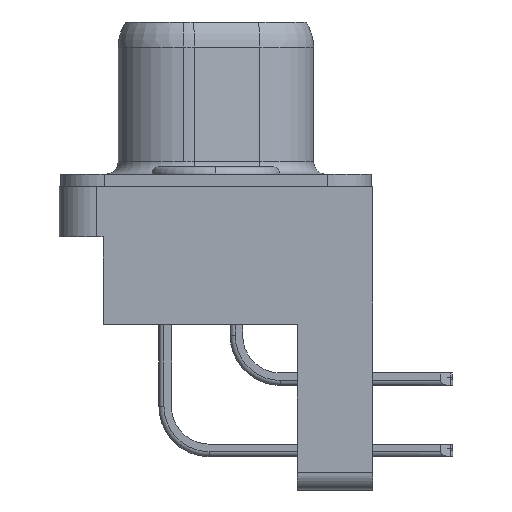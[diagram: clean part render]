
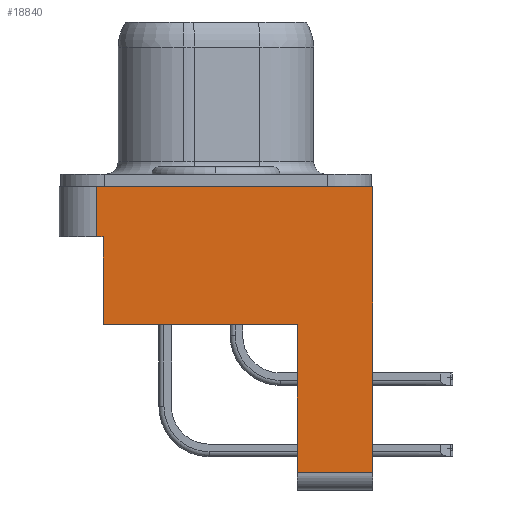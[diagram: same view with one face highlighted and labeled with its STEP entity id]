
A CAD part, left-side view. The second image highlights one B-rep face of the part: STEP entity #18840.
In plain terms, the highlighted planar face has unit normal (-1, 0, 0).
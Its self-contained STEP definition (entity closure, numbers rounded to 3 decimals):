
#349 = EDGE_CURVE ( 'NONE', #9616, #920, #18876, .T. ) ;
#727 = CARTESIAN_POINT ( 'NONE',  ( -15.4, 4.5, -5.5 ) ) ;
#920 = VERTEX_POINT ( 'NONE', #1550 ) ;
#1094 = CARTESIAN_POINT ( 'NONE',  ( -15.4, 6.25, -5.5 ) ) ;
#1550 = CARTESIAN_POINT ( 'NONE',  ( -15.4, -3.25, -5.5 ) ) ;
#2041 = VECTOR ( 'NONE', #8631, 1000. ) ;
#2104 = ORIENTED_EDGE ( 'NONE', *, *, #16415, .T. ) ;
#2665 = VERTEX_POINT ( 'NONE', #7470 ) ;
#3049 = CARTESIAN_POINT ( 'NONE',  ( -15.4, 6.25, 0. ) ) ;
#3707 = PLANE ( 'NONE',  #3869 ) ;
#3869 = AXIS2_PLACEMENT_3D ( 'NONE', #6651, #18620, #12648 ) ;
#4196 = DIRECTION ( 'NONE',  ( 0., -1., 0. ) ) ;
#4614 = CARTESIAN_POINT ( 'NONE',  ( -15.4, -6.25, -5.5 ) ) ;
#4711 = EDGE_CURVE ( 'NONE', #9616, #17638, #14029, .T. ) ;
#5243 = LINE ( 'NONE', #3049, #7127 ) ;
#5534 = VERTEX_POINT ( 'NONE', #16089 ) ;
#6651 = CARTESIAN_POINT ( 'NONE',  ( -15.4, 6.25, -5.5 ) ) ;
#7036 = ORIENTED_EDGE ( 'NONE', *, *, #14726, .F. ) ;
#7127 = VECTOR ( 'NONE', #12035, 1000. ) ;
#7397 = LINE ( 'NONE', #12656, #14991 ) ;
#7470 = CARTESIAN_POINT ( 'NONE',  ( -15.4, -3.25, -11.4 ) ) ;
#7495 = LINE ( 'NONE', #4614, #11398 ) ;
#8081 = ORIENTED_EDGE ( 'NONE', *, *, #9053, .F. ) ;
#8631 = DIRECTION ( 'NONE',  ( 0., 0., 1. ) ) ;
#8994 = LINE ( 'NONE', #16209, #13181 ) ;
#9053 = EDGE_CURVE ( 'NONE', #17596, #15891, #5243, .T. ) ;
#9523 = LINE ( 'NONE', #11513, #14830 ) ;
#9616 = VERTEX_POINT ( 'NONE', #14030 ) ;
#9903 = LINE ( 'NONE', #10058, #2041 ) ;
#10058 = CARTESIAN_POINT ( 'NONE',  ( -15.4, -3.25, -5.5 ) ) ;
#10076 = ORIENTED_EDGE ( 'NONE', *, *, #14253, .T. ) ;
#10201 = CARTESIAN_POINT ( 'NONE',  ( -15.4, -6.25, 0. ) ) ;
#10418 = ORIENTED_EDGE ( 'NONE', *, *, #4711, .F. ) ;
#10690 = CARTESIAN_POINT ( 'NONE',  ( -15.4, 4.75, 0. ) ) ;
#11321 = ORIENTED_EDGE ( 'NONE', *, *, #16815, .T. ) ;
#11331 = EDGE_LOOP ( 'NONE', ( #17791, #7036, #11321, #2104, #8081, #11680, #10076, #10418 ) ) ;
#11398 = VECTOR ( 'NONE', #17532, 1000. ) ;
#11513 = CARTESIAN_POINT ( 'NONE',  ( -15.4, -6.25, -11.4 ) ) ;
#11680 = ORIENTED_EDGE ( 'NONE', *, *, #14644, .T. ) ;
#11759 = DIRECTION ( 'NONE',  ( 0., -1., 0. ) ) ;
#12035 = DIRECTION ( 'NONE',  ( 0., -1., 0. ) ) ;
#12042 = CARTESIAN_POINT ( 'NONE',  ( -15.4, 4.5, -2. ) ) ;
#12648 = DIRECTION ( 'NONE',  ( 0., 0., 1. ) ) ;
#12656 = CARTESIAN_POINT ( 'NONE',  ( -15.4, 4.75, -5.5 ) ) ;
#13181 = VECTOR ( 'NONE', #11759, 1000. ) ;
#13790 = VECTOR ( 'NONE', #17191, 1000. ) ;
#14029 = LINE ( 'NONE', #727, #13790 ) ;
#14030 = CARTESIAN_POINT ( 'NONE',  ( -15.4, 4.5, -5.5 ) ) ;
#14188 = FACE_OUTER_BOUND ( 'NONE', #11331, .T. ) ;
#14253 = EDGE_CURVE ( 'NONE', #5534, #17638, #8994, .T. ) ;
#14644 = EDGE_CURVE ( 'NONE', #17596, #5534, #7397, .T. ) ;
#14726 = EDGE_CURVE ( 'NONE', #2665, #920, #9903, .T. ) ;
#14830 = VECTOR ( 'NONE', #4196, 1000. ) ;
#14991 = VECTOR ( 'NONE', #15631, 1000. ) ;
#15631 = DIRECTION ( 'NONE',  ( 0., 0., -1. ) ) ;
#15844 = DIRECTION ( 'NONE',  ( 0., -1., 0. ) ) ;
#15891 = VERTEX_POINT ( 'NONE', #10201 ) ;
#16089 = CARTESIAN_POINT ( 'NONE',  ( -15.4, 4.75, -2. ) ) ;
#16096 = VERTEX_POINT ( 'NONE', #18311 ) ;
#16209 = CARTESIAN_POINT ( 'NONE',  ( -15.4, 7.5, -2. ) ) ;
#16415 = EDGE_CURVE ( 'NONE', #16096, #15891, #7495, .T. ) ;
#16815 = EDGE_CURVE ( 'NONE', #2665, #16096, #9523, .T. ) ;
#17191 = DIRECTION ( 'NONE',  ( 0., 0., 1. ) ) ;
#17532 = DIRECTION ( 'NONE',  ( 0., 0., 1. ) ) ;
#17596 = VERTEX_POINT ( 'NONE', #10690 ) ;
#17638 = VERTEX_POINT ( 'NONE', #12042 ) ;
#17791 = ORIENTED_EDGE ( 'NONE', *, *, #349, .T. ) ;
#17967 = VECTOR ( 'NONE', #15844, 1000. ) ;
#18311 = CARTESIAN_POINT ( 'NONE',  ( -15.4, -6.25, -11.4 ) ) ;
#18620 = DIRECTION ( 'NONE',  ( -1., 0., 0. ) ) ;
#18840 = ADVANCED_FACE ( 'NONE', ( #14188 ), #3707, .T. ) ;
#18876 = LINE ( 'NONE', #1094, #17967 ) ;
